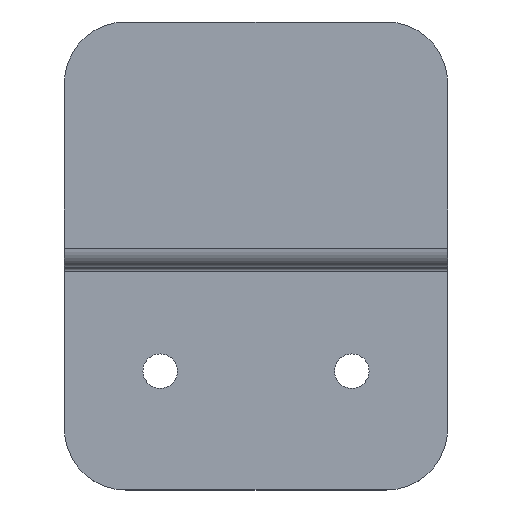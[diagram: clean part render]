
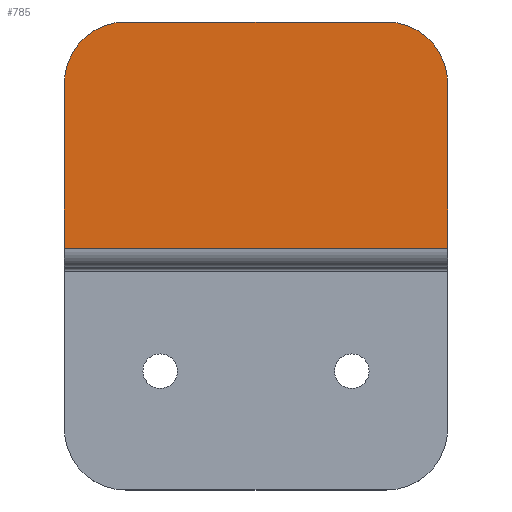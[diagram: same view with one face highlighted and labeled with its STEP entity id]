
A CAD part, top view. The second image highlights one B-rep face of the part: STEP entity #785.
In plain terms, the highlighted planar face has unit normal (0, 0, 1).
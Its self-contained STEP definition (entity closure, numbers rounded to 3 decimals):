
#2 = LINE ( 'NONE', #244, #621 ) ;
#59 = CARTESIAN_POINT ( 'NONE',  ( 17., 270., 22. ) ) ;
#86 = AXIS2_PLACEMENT_3D ( 'NONE', #382, #199, #685 ) ;
#93 = EDGE_CURVE ( 'NONE', #147, #509, #236, .T. ) ;
#110 = CARTESIAN_POINT ( 'NONE',  ( -25., 240.5, 22. ) ) ;
#111 = DIRECTION ( 'NONE',  ( 0., -1., 0. ) ) ;
#131 = VECTOR ( 'NONE', #308, 1000. ) ;
#132 = DIRECTION ( 'NONE',  ( 0., 0., 1. ) ) ;
#147 = VERTEX_POINT ( 'NONE', #664 ) ;
#174 = VECTOR ( 'NONE', #425, 1000. ) ;
#179 = VERTEX_POINT ( 'NONE', #59 ) ;
#199 = DIRECTION ( 'NONE',  ( 0., 0., 1. ) ) ;
#229 = LINE ( 'NONE', #110, #407 ) ;
#236 = LINE ( 'NONE', #301, #174 ) ;
#244 = CARTESIAN_POINT ( 'NONE',  ( 25., 270., 22. ) ) ;
#249 = CIRCLE ( 'NONE', #327, 8. ) ;
#262 = ORIENTED_EDGE ( 'NONE', *, *, #501, .T. ) ;
#301 = CARTESIAN_POINT ( 'NONE',  ( -25., 270., 22. ) ) ;
#307 = CARTESIAN_POINT ( 'NONE',  ( 17., 262., 22. ) ) ;
#308 = DIRECTION ( 'NONE',  ( 1., 0., 0. ) ) ;
#313 = AXIS2_PLACEMENT_3D ( 'NONE', #462, #132, #111 ) ;
#316 = ORIENTED_EDGE ( 'NONE', *, *, #93, .T. ) ;
#326 = EDGE_LOOP ( 'NONE', ( #500, #262, #316, #623, #660, #771 ) ) ;
#327 = AXIS2_PLACEMENT_3D ( 'NONE', #307, #542, #421 ) ;
#356 = DIRECTION ( 'NONE',  ( 1., 0., 0. ) ) ;
#382 = CARTESIAN_POINT ( 'NONE',  ( -17., 262., 22. ) ) ;
#405 = DIRECTION ( 'NONE',  ( 0., -1., 0. ) ) ;
#407 = VECTOR ( 'NONE', #356, 1000. ) ;
#417 = LINE ( 'NONE', #484, #131 ) ;
#421 = DIRECTION ( 'NONE',  ( 0., -1., 0. ) ) ;
#424 = CIRCLE ( 'NONE', #86, 8. ) ;
#425 = DIRECTION ( 'NONE',  ( 0., -1., 0. ) ) ;
#462 = CARTESIAN_POINT ( 'NONE',  ( -25., 270., 22. ) ) ;
#479 = FACE_OUTER_BOUND ( 'NONE', #326, .T. ) ;
#484 = CARTESIAN_POINT ( 'NONE',  ( -25., 270., 22. ) ) ;
#500 = ORIENTED_EDGE ( 'NONE', *, *, #774, .F. ) ;
#501 = EDGE_CURVE ( 'NONE', #696, #147, #424, .T. ) ;
#509 = VERTEX_POINT ( 'NONE', #625 ) ;
#537 = CARTESIAN_POINT ( 'NONE',  ( 25., 262., 22. ) ) ;
#542 = DIRECTION ( 'NONE',  ( 0., 0., 1. ) ) ;
#561 = EDGE_CURVE ( 'NONE', #769, #617, #2, .T. ) ;
#617 = VERTEX_POINT ( 'NONE', #783 ) ;
#621 = VECTOR ( 'NONE', #405, 1000. ) ;
#623 = ORIENTED_EDGE ( 'NONE', *, *, #646, .T. ) ;
#625 = CARTESIAN_POINT ( 'NONE',  ( -25., 240.5, 22. ) ) ;
#646 = EDGE_CURVE ( 'NONE', #509, #617, #229, .T. ) ;
#660 = ORIENTED_EDGE ( 'NONE', *, *, #561, .F. ) ;
#664 = CARTESIAN_POINT ( 'NONE',  ( -25., 262., 22. ) ) ;
#685 = DIRECTION ( 'NONE',  ( 0., -1., 0. ) ) ;
#696 = VERTEX_POINT ( 'NONE', #770 ) ;
#733 = EDGE_CURVE ( 'NONE', #769, #179, #249, .T. ) ;
#737 = PLANE ( 'NONE',  #313 ) ;
#769 = VERTEX_POINT ( 'NONE', #537 ) ;
#770 = CARTESIAN_POINT ( 'NONE',  ( -17., 270., 22. ) ) ;
#771 = ORIENTED_EDGE ( 'NONE', *, *, #733, .T. ) ;
#774 = EDGE_CURVE ( 'NONE', #696, #179, #417, .T. ) ;
#783 = CARTESIAN_POINT ( 'NONE',  ( 25., 240.5, 22. ) ) ;
#785 = ADVANCED_FACE ( 'NONE', ( #479 ), #737, .T. ) ;
